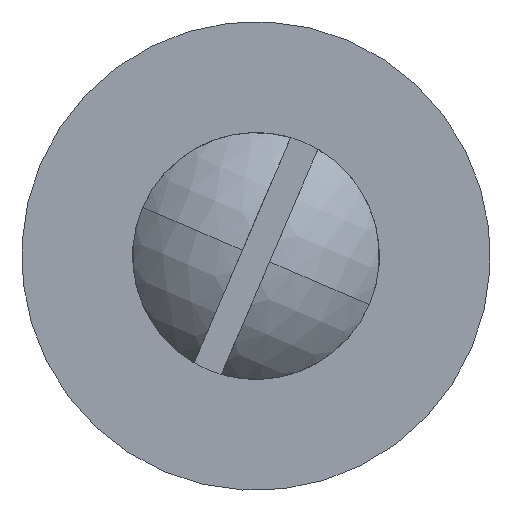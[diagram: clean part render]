
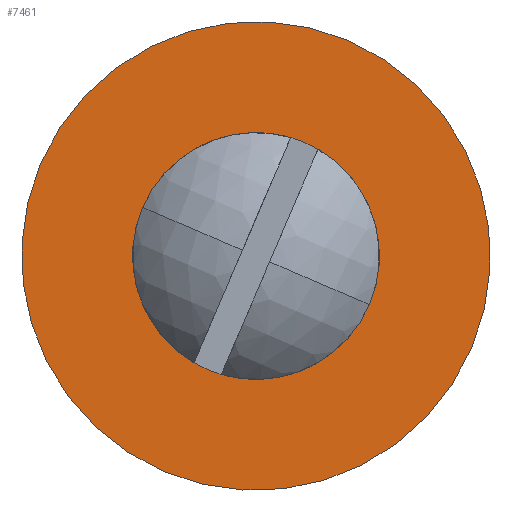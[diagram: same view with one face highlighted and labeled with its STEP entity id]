
A CAD part, left-side view. The second image highlights one B-rep face of the part: STEP entity #7461.
In plain terms, the highlighted planar face has unit normal (-1, 0, 0).
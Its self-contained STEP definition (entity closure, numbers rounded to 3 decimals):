
#978 = CARTESIAN_POINT ( 'NONE',  ( 2., 0., 4.75 ) ) ;
#1082 = CARTESIAN_POINT ( 'NONE',  ( 2., 0., 2.5 ) ) ;
#1086 = CARTESIAN_POINT ( 'NONE',  ( 2., 0., -4.75 ) ) ;
#1087 = CARTESIAN_POINT ( 'NONE',  ( 2., 0., -2.5 ) ) ;
#1349 = DIRECTION ( 'NONE',  ( 0., 0., 1. ) ) ;
#1351 = DIRECTION ( 'NONE',  ( -1., 0., 0. ) ) ;
#1354 = CARTESIAN_POINT ( 'NONE',  ( 2., 0., 0. ) ) ;
#1360 = DIRECTION ( 'NONE',  ( 0., 0., 1. ) ) ;
#1362 = DIRECTION ( 'NONE',  ( -1., 0., 0. ) ) ;
#1364 = CARTESIAN_POINT ( 'NONE',  ( 2., 0., 0. ) ) ;
#2386 = ORIENTED_EDGE ( 'NONE', *, *, #5121, .T. ) ;
#2387 = ORIENTED_EDGE ( 'NONE', *, *, #4700, .F. ) ;
#2388 = ORIENTED_EDGE ( 'NONE', *, *, #5123, .F. ) ;
#2393 = ORIENTED_EDGE ( 'NONE', *, *, #4705, .T. ) ;
#2626 = EDGE_LOOP ( 'NONE', ( #2386, #2393 ) ) ;
#2669 = EDGE_LOOP ( 'NONE', ( #2388, #2387 ) ) ;
#4386 = DIRECTION ( 'NONE',  ( 0., 0., 1. ) ) ;
#4387 = DIRECTION ( 'NONE',  ( -1., 0., 0. ) ) ;
#4388 = CARTESIAN_POINT ( 'NONE',  ( 2., 0., 0. ) ) ;
#4409 = DIRECTION ( 'NONE',  ( 0., 0., 1. ) ) ;
#4411 = DIRECTION ( 'NONE',  ( -1., 0., 0. ) ) ;
#4412 = CARTESIAN_POINT ( 'NONE',  ( 2., 0., 0. ) ) ;
#4700 = EDGE_CURVE ( 'NONE', #6706, #6709, #5971, .T. ) ;
#4705 = EDGE_CURVE ( 'NONE', #6707, #6752, #5969, .T. ) ;
#4993 = AXIS2_PLACEMENT_3D ( 'NONE', #5416, #5406, #5404 ) ;
#5037 = AXIS2_PLACEMENT_3D ( 'NONE', #1354, #1351, #1349 ) ;
#5038 = AXIS2_PLACEMENT_3D ( 'NONE', #1364, #1362, #1360 ) ;
#5081 = AXIS2_PLACEMENT_3D ( 'NONE', #4388, #4387, #4386 ) ;
#5086 = AXIS2_PLACEMENT_3D ( 'NONE', #4412, #4411, #4409 ) ;
#5121 = EDGE_CURVE ( 'NONE', #6752, #6707, #5867, .T. ) ;
#5123 = EDGE_CURVE ( 'NONE', #6709, #6706, #5864, .T. ) ;
#5404 = DIRECTION ( 'NONE',  ( 0., 0., -1. ) ) ;
#5406 = DIRECTION ( 'NONE',  ( 1., 0., 0. ) ) ;
#5408 = PLANE ( 'NONE',  #4993 ) ;
#5416 = CARTESIAN_POINT ( 'NONE',  ( 2., 2.5, 0. ) ) ;
#5864 = CIRCLE ( 'NONE', #5037, 2.5 ) ;
#5867 = CIRCLE ( 'NONE', #5038, 4.75 ) ;
#5969 = CIRCLE ( 'NONE', #5081, 4.75 ) ;
#5971 = CIRCLE ( 'NONE', #5086, 2.5 ) ;
#6706 = VERTEX_POINT ( 'NONE', #1087 ) ;
#6707 = VERTEX_POINT ( 'NONE', #1086 ) ;
#6709 = VERTEX_POINT ( 'NONE', #1082 ) ;
#6752 = VERTEX_POINT ( 'NONE', #978 ) ;
#7095 = FACE_BOUND ( 'NONE', #2669, .T. ) ;
#7194 = FACE_OUTER_BOUND ( 'NONE', #2626, .T. ) ;
#7461 = ADVANCED_FACE ( 'NONE', ( #7095, #7194 ), #5408, .F. ) ;
